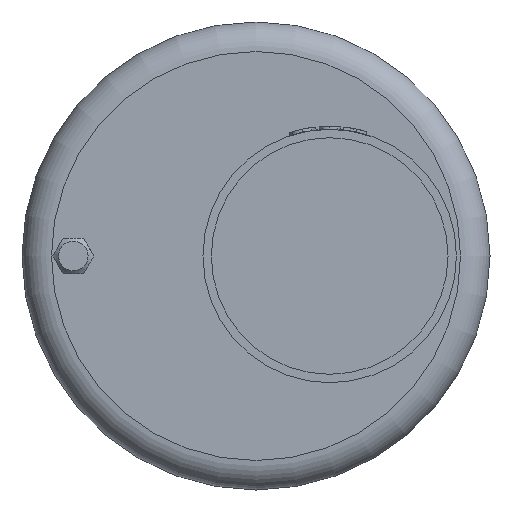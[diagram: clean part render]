
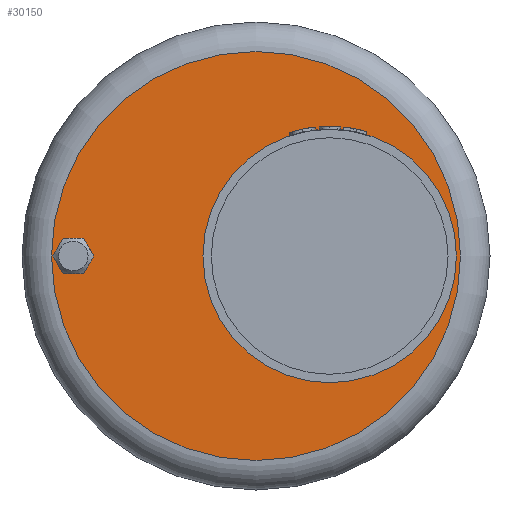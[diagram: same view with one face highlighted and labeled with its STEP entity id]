
A CAD part, front view. The second image highlights one B-rep face of the part: STEP entity #30150.
In plain terms, the highlighted planar face has unit normal (0, -1, 0).
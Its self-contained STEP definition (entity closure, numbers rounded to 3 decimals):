
#1398=PLANE('',#32249);
#1995=CIRCLE('',#32184,40.7);
#2012=CIRCLE('',#32228,6.);
#2021=CIRCLE('',#32248,69.4);
#7072=FACE_BOUND('',#10593,.T.);
#7073=FACE_BOUND('',#10594,.T.);
#8724=FACE_OUTER_BOUND('',#10592,.T.);
#10592=EDGE_LOOP('',(#28098));
#10593=EDGE_LOOP('',(#28099));
#10594=EDGE_LOOP('',(#28100));
#14804=VERTEX_POINT('',#64763);
#14834=VERTEX_POINT('',#64879);
#14843=VERTEX_POINT('',#64908);
#19234=EDGE_CURVE('',#14804,#14804,#1995,.T.);
#19270=EDGE_CURVE('',#14834,#14834,#2012,.T.);
#19279=EDGE_CURVE('',#14843,#14843,#2021,.T.);
#28098=ORIENTED_EDGE('',*,*,#19279,.T.);
#28099=ORIENTED_EDGE('',*,*,#19234,.T.);
#28100=ORIENTED_EDGE('',*,*,#19270,.T.);
#30150=ADVANCED_FACE('',(#8724,#7072,#7073),#1398,.T.);
#32184=AXIS2_PLACEMENT_3D('',#64764,#38373,#38374);
#32228=AXIS2_PLACEMENT_3D('',#64880,#38467,#38468);
#32248=AXIS2_PLACEMENT_3D('',#64909,#38507,#38508);
#32249=AXIS2_PLACEMENT_3D('',#64910,#38509,#38510);
#38373=DIRECTION('center_axis',(0.,1.,0.));
#38374=DIRECTION('ref_axis',(0.,0.,-1.));
#38467=DIRECTION('center_axis',(0.,1.,0.));
#38468=DIRECTION('ref_axis',(-1.,0.,0.));
#38507=DIRECTION('center_axis',(0.,-1.,0.));
#38508=DIRECTION('ref_axis',(-1.,0.,0.));
#38509=DIRECTION('center_axis',(0.,-1.,0.));
#38510=DIRECTION('ref_axis',(0.,0.,-1.));
#64763=CARTESIAN_POINT('',(65.7,-127.,0.));
#64764=CARTESIAN_POINT('Origin',(25.,-127.,0.));
#64879=CARTESIAN_POINT('',(-68.,-127.,0.));
#64880=CARTESIAN_POINT('Origin',(-62.,-127.,0.));
#64908=CARTESIAN_POINT('',(-69.4,-127.,0.));
#64909=CARTESIAN_POINT('Origin',(0.,-127.,0.));
#64910=CARTESIAN_POINT('Origin',(-34.7,-127.,0.));
